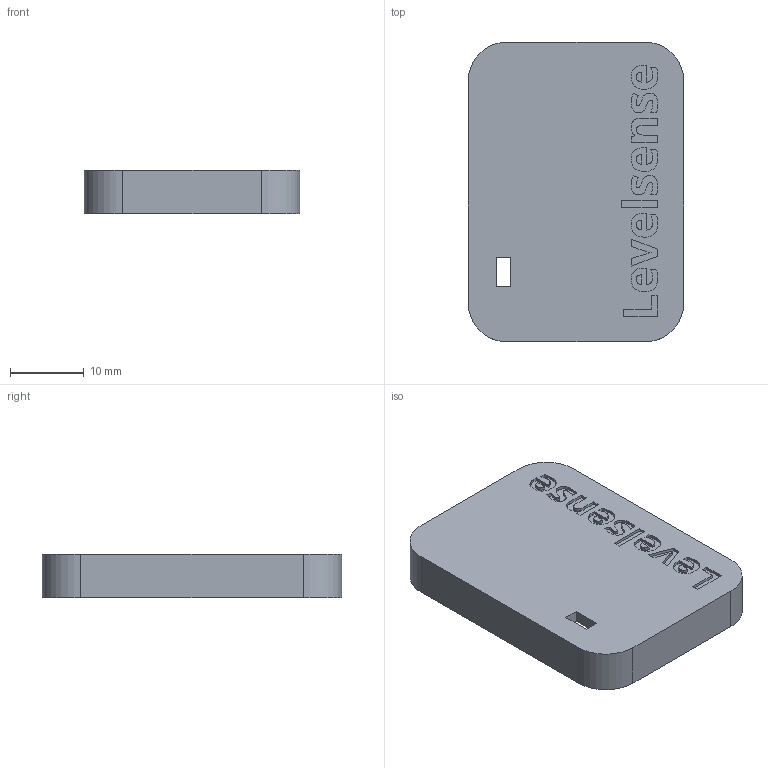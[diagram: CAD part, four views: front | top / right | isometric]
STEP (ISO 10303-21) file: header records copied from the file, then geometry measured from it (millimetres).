
FILE_DESCRIPTION(/* description */ ('STEP AP242 Edition 2','CAx-IF Rec.Pracs.---Representation and Presentation of Product Manufacturing Information (PMI)---4.0---2014-10-13','CAx-IF Rec.Pracs.---3D Tessellated Geometry---0.4---2014-09-14','2;1','CAx-IF Rec.Pracs.---User Defined Attributes---1.5---2016-08-15'),/* implementation_level */ '2;1');
FILE_NAME(/* name */ 'LevelSense - Bottom cover',/* time_stamp */ '2026-07-29T22:01:06Z',/* author */ (''),/* organization */ (''),/* preprocessor_version */ 'ST-DEVELOPER v20',/* originating_system */ 'ONSHAPE BY PTC INC, 1.218',/* authorisation */ ' ');
FILE_SCHEMA (('AP242_MANAGED_MODEL_BASED_3D_ENGINEERING_MIM_LF { 1 0 10303 442 3 1 4 }'));
Length unit declared in the file: centimetre
Products named in the file (1): Bottom cover
Bounding box: 29.23 x 40.66 x 5.9 mm (x, y, z)
Volume: 2623.9 mm3; surface area: 3678.9 mm2
Topology: 1 solids, 1 shells, 215 faces, 597 edges, 398 vertices
Faces by surface type: bspline 87, plane 81, cylinder 47
Entity records: 7205 total; most frequent: CARTESIAN_POINT 2168, ORIENTED_EDGE 1194, DIRECTION 777, EDGE_CURVE 597, VERTEX_POINT 398, LINE 327, VECTOR 327, EDGE_LOOP 233
